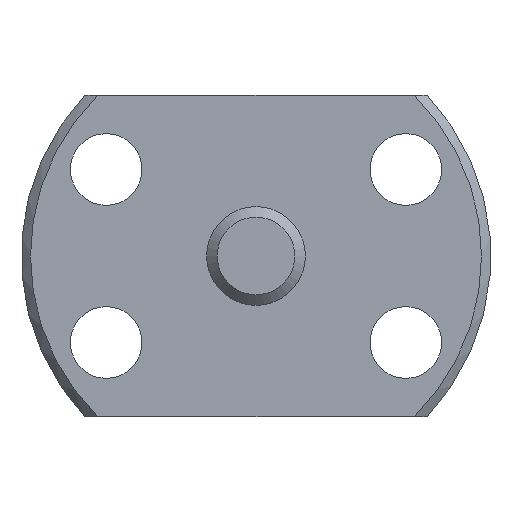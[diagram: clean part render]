
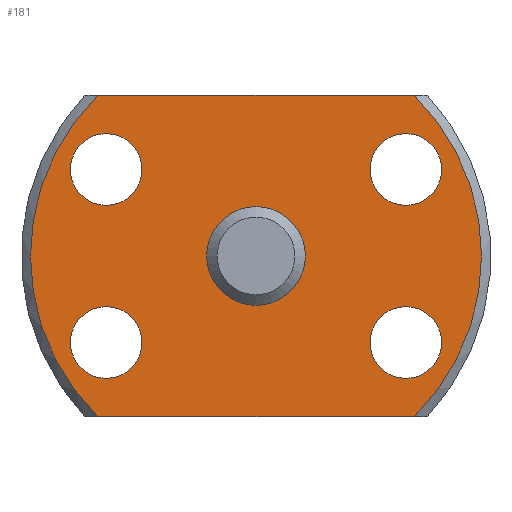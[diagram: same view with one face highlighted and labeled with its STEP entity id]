
A CAD part, left-side view. The second image highlights one B-rep face of the part: STEP entity #181.
In plain terms, the highlighted planar face has unit normal (-1, 0, 0).
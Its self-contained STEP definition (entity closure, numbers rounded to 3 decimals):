
#181 = ADVANCED_FACE( '', ( #229, #230, #231, #232, #233, #234 ), #235, .T. );
#229 = FACE_BOUND( '', #303, .T. );
#230 = FACE_OUTER_BOUND( '', #304, .T. );
#231 = FACE_BOUND( '', #305, .T. );
#232 = FACE_BOUND( '', #306, .T. );
#233 = FACE_BOUND( '', #307, .T. );
#234 = FACE_BOUND( '', #308, .T. );
#235 = PLANE( '', #309 );
#303 = EDGE_LOOP( '', ( #422 ) );
#304 = EDGE_LOOP( '', ( #423, #424, #425, #426 ) );
#305 = EDGE_LOOP( '', ( #427 ) );
#306 = EDGE_LOOP( '', ( #428 ) );
#307 = EDGE_LOOP( '', ( #429 ) );
#308 = EDGE_LOOP( '', ( #430 ) );
#309 = AXIS2_PLACEMENT_3D( '', #431, #432, #433 );
#422 = ORIENTED_EDGE( '', *, *, #534, .T. );
#423 = ORIENTED_EDGE( '', *, *, #535, .F. );
#424 = ORIENTED_EDGE( '', *, *, #536, .F. );
#425 = ORIENTED_EDGE( '', *, *, #511, .F. );
#426 = ORIENTED_EDGE( '', *, *, #532, .F. );
#427 = ORIENTED_EDGE( '', *, *, #537, .T. );
#428 = ORIENTED_EDGE( '', *, *, #538, .T. );
#429 = ORIENTED_EDGE( '', *, *, #539, .T. );
#430 = ORIENTED_EDGE( '', *, *, #540, .T. );
#431 = CARTESIAN_POINT( '', ( 0., 9.125, 0. ) );
#432 = DIRECTION( '', ( -1., 0., 0. ) );
#433 = DIRECTION( '', ( 0., 0., 1. ) );
#511 = EDGE_CURVE( '', #560, #562, #563, .T. );
#532 = EDGE_CURVE( '', #597, #560, #600, .T. );
#534 = EDGE_CURVE( '', #602, #602, #603, .T. );
#535 = EDGE_CURVE( '', #604, #597, #605, .T. );
#536 = EDGE_CURVE( '', #562, #604, #606, .T. );
#537 = EDGE_CURVE( '', #607, #607, #608, .T. );
#538 = EDGE_CURVE( '', #609, #609, #610, .T. );
#539 = EDGE_CURVE( '', #611, #611, #612, .T. );
#540 = EDGE_CURVE( '', #613, #613, #614, .T. );
#560 = VERTEX_POINT( '', #642 );
#562 = VERTEX_POINT( '', #647 );
#563 = LINE( '', #648, #649 );
#597 = VERTEX_POINT( '', #699 );
#600 = CIRCLE( '', #705, 9.125 );
#602 = VERTEX_POINT( '', #707 );
#603 = CIRCLE( '', #708, 2. );
#604 = VERTEX_POINT( '', #709 );
#605 = LINE( '', #710, #711 );
#606 = CIRCLE( '', #712, 9.125 );
#607 = VERTEX_POINT( '', #713 );
#608 = CIRCLE( '', #714, 1.45 );
#609 = VERTEX_POINT( '', #715 );
#610 = CIRCLE( '', #716, 1.45 );
#611 = VERTEX_POINT( '', #717 );
#612 = CIRCLE( '', #718, 1.45 );
#613 = VERTEX_POINT( '', #719 );
#614 = CIRCLE( '', #720, 1.45 );
#642 = CARTESIAN_POINT( '', ( 0., -6.404, -6.5 ) );
#647 = CARTESIAN_POINT( '', ( 0., 6.404, -6.5 ) );
#648 = CARTESIAN_POINT( '', ( 0., -9.5, -6.5 ) );
#649 = VECTOR( '', #748, 1000. );
#699 = CARTESIAN_POINT( '', ( 0., -6.404, 6.5 ) );
#705 = AXIS2_PLACEMENT_3D( '', #786, #787, #788 );
#707 = CARTESIAN_POINT( '', ( 0., 0., -2. ) );
#708 = AXIS2_PLACEMENT_3D( '', #792, #793, #794 );
#709 = CARTESIAN_POINT( '', ( 0., 6.404, 6.5 ) );
#710 = CARTESIAN_POINT( '', ( 0., 9.5, 6.5 ) );
#711 = VECTOR( '', #795, 1000. );
#712 = AXIS2_PLACEMENT_3D( '', #796, #797, #798 );
#713 = CARTESIAN_POINT( '', ( 0., 6.062, 2.05 ) );
#714 = AXIS2_PLACEMENT_3D( '', #799, #800, #801 );
#715 = CARTESIAN_POINT( '', ( 0., -6.062, 2.05 ) );
#716 = AXIS2_PLACEMENT_3D( '', #802, #803, #804 );
#717 = CARTESIAN_POINT( '', ( 0., -6.062, -4.95 ) );
#718 = AXIS2_PLACEMENT_3D( '', #805, #806, #807 );
#719 = CARTESIAN_POINT( '', ( 0., 6.062, -4.95 ) );
#720 = AXIS2_PLACEMENT_3D( '', #808, #809, #810 );
#748 = DIRECTION( '', ( 0., 1., 0. ) );
#786 = CARTESIAN_POINT( '', ( 0., 0., 0. ) );
#787 = DIRECTION( '', ( 1., 0., 0. ) );
#788 = DIRECTION( '', ( 0., 0., -1. ) );
#792 = CARTESIAN_POINT( '', ( 0., 0., 0. ) );
#793 = DIRECTION( '', ( 1., 0., 0. ) );
#794 = DIRECTION( '', ( 0., 0., -1. ) );
#795 = DIRECTION( '', ( 0., -1., 0. ) );
#796 = CARTESIAN_POINT( '', ( 0., 0., 0. ) );
#797 = DIRECTION( '', ( 1., 0., 0. ) );
#798 = DIRECTION( '', ( 0., 0., -1. ) );
#799 = CARTESIAN_POINT( '', ( 0., 6.062, 3.5 ) );
#800 = DIRECTION( '', ( 1., 0., 0. ) );
#801 = DIRECTION( '', ( 0., 0., -1. ) );
#802 = CARTESIAN_POINT( '', ( 0., -6.062, 3.5 ) );
#803 = DIRECTION( '', ( 1., 0., 0. ) );
#804 = DIRECTION( '', ( 0., 0., -1. ) );
#805 = CARTESIAN_POINT( '', ( 0., -6.062, -3.5 ) );
#806 = DIRECTION( '', ( 1., 0., 0. ) );
#807 = DIRECTION( '', ( 0., 0., -1. ) );
#808 = CARTESIAN_POINT( '', ( 0., 6.062, -3.5 ) );
#809 = DIRECTION( '', ( 1., 0., 0. ) );
#810 = DIRECTION( '', ( 0., 0., -1. ) );
